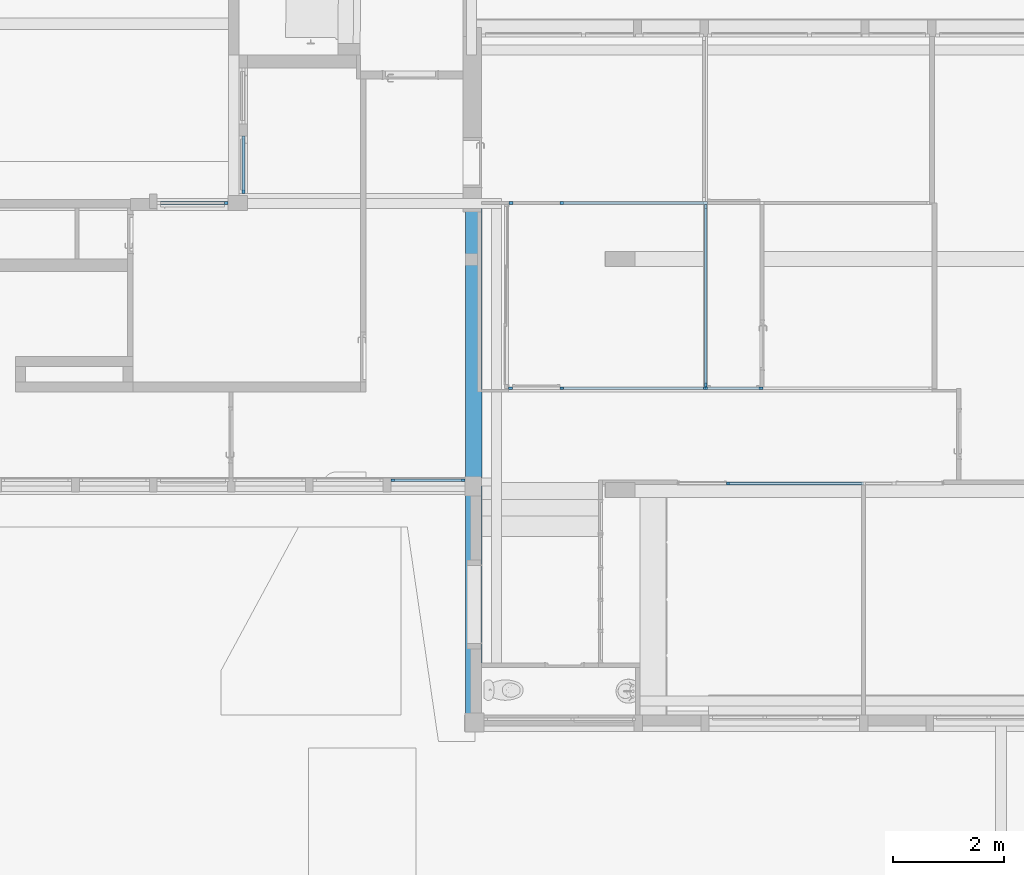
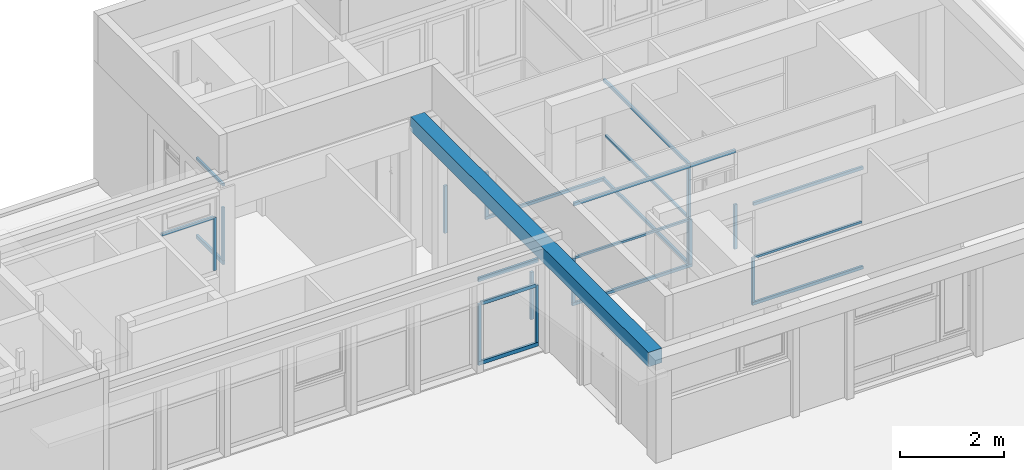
# One storey, part 7 of 49: 30 members, 1 beam, 7 elements without a shape of their own.
"""IFC4 building model written with IfcOpenShell, lengths in metres."""

from ifc_helpers import new_model, entity, si_unit, converted_unit, derived_unit, direction, frame, origin, place, context, subcontext, project, spatial, indexed_curve, outline, extrude, source, transform, mapped, material, type_object, type_shapes, element, aggregate, save


model = new_model("IFC4")

# Units and contexts
model_context = context("Model", 3, precision=1e-05, world=origin(), true_north=direction((6.12303176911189e-17, 1.0)))
body_context = subcontext(model_context, "Body", "Model", "MODEL_VIEW")
ifc_project = project(units=[si_unit("LENGTHUNIT", "METRE"), si_unit("AREAUNIT", "SQUARE_METRE"), si_unit("VOLUMEUNIT", "CUBIC_METRE"), converted_unit("PLANEANGLEUNIT", "DEGREE", entity("IfcRatioMeasure", 0.0174532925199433), si_unit("PLANEANGLEUNIT", "RADIAN"), dimensions=[0, 0, 0, 0, 0, 0, 0]), si_unit("MASSUNIT", "GRAM", prefix="KILO"), derived_unit("MASSDENSITYUNIT", [(si_unit("MASSUNIT", "GRAM", prefix="KILO"), 1), (si_unit("LENGTHUNIT", "METRE"), -3)]), derived_unit("MOMENTOFINERTIAUNIT", [(si_unit("LENGTHUNIT", "METRE"), 4)]), si_unit("TIMEUNIT", "SECOND"), si_unit("FREQUENCYUNIT", "HERTZ"), si_unit("THERMODYNAMICTEMPERATUREUNIT", "DEGREE_CELSIUS"), derived_unit("THERMALTRANSMITTANCEUNIT", [(si_unit("MASSUNIT", "GRAM", prefix="KILO"), 1), (si_unit("THERMODYNAMICTEMPERATUREUNIT", "KELVIN"), -1), (si_unit("TIMEUNIT", "SECOND"), -3)]), derived_unit("VOLUMETRICFLOWRATEUNIT", [(si_unit("LENGTHUNIT", "METRE"), 3), (si_unit("TIMEUNIT", "SECOND"), -1)]), si_unit("ELECTRICCURRENTUNIT", "AMPERE"), si_unit("ELECTRICVOLTAGEUNIT", "VOLT"), si_unit("POWERUNIT", "WATT"), si_unit("FORCEUNIT", "NEWTON", prefix="KILO"), si_unit("ILLUMINANCEUNIT", "LUX"), si_unit("LUMINOUSFLUXUNIT", "LUMEN"), si_unit("LUMINOUSINTENSITYUNIT", "CANDELA"), derived_unit("USERDEFINED", [(si_unit("MASSUNIT", "GRAM", prefix="KILO"), -1), (si_unit("LENGTHUNIT", "METRE"), -2), (si_unit("TIMEUNIT", "SECOND"), 3), (si_unit("LUMINOUSFLUXUNIT", "LUMEN"), 1)]), derived_unit("LINEARVELOCITYUNIT", [(si_unit("LENGTHUNIT", "METRE"), 1), (si_unit("TIMEUNIT", "SECOND"), -1)]), si_unit("PRESSUREUNIT", "PASCAL"), derived_unit("USERDEFINED", [(si_unit("LENGTHUNIT", "METRE"), -2), (si_unit("MASSUNIT", "GRAM", prefix="KILO"), 1), (si_unit("TIMEUNIT", "SECOND"), -2)]), derived_unit("LINEARFORCEUNIT", [(si_unit("MASSUNIT", "GRAM", prefix="KILO"), 1), (si_unit("LENGTHUNIT", "METRE"), 1), (si_unit("TIMEUNIT", "SECOND"), -2), (si_unit("LENGTHUNIT", "METRE"), -1)]), derived_unit("PLANARFORCEUNIT", [(si_unit("MASSUNIT", "GRAM", prefix="KILO"), 1), (si_unit("LENGTHUNIT", "METRE"), 1), (si_unit("TIMEUNIT", "SECOND"), -2), (si_unit("LENGTHUNIT", "METRE"), -2)])], contexts=[model_context])

# Site, building, storey
site_placement = place(None, origin())
site = spatial("IfcSite", under=ifc_project, at=site_placement, Name="Default", CompositionType="ELEMENT")
building_placement = place(site_placement, origin())
building = spatial("IfcBuilding", under=site, at=building_placement, Name="HOTEL CONSULAIRE BOULOGNE SUR MER", CompositionType="ELEMENT")
storey_placement = place(building_placement, frame((0.0, 0.0, 6.81974152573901)))
storey = spatial("IfcBuildingStorey", under=building, at=storey_placement, Name="Niveau 2", CompositionType="ELEMENT", Elevation=6.81974152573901)

# Curtain wall, member
curtain_wall_type = type_object("IfcCurtainWallType", Name="Mur-rideau:Simple panneau", PredefinedType="NOTDEFINED")
curtain_wall_1_placement = place(storey_placement, frame((0.0, 0.0, -6.81974152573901)))
curtain_wall_1 = element("IfcCurtainWall", 1, at=curtain_wall_1_placement, inside=storey, type_object=curtain_wall_type, Name="Mur-rideau:Simple panneau", ObjectType="Mur-rideau:Simple panneau", PredefinedType="NOTDEFINED")
ifc_material_1 = material(Name="PVC - Blanc", Category="Plastique")
member_type_1 = type_object("IfcMemberType", Name="Meneau rectangulaire:50 x 35", PredefinedType="MULLION", material=ifc_material_1)
shared_shape_1 = source(origin(), body_context, "Body", "SweptSolid", [
    extrude(outline(indexed_curve([(-0.025, -0.035), (0.025, -0.035), (0.025, 0.035), (-0.025, 0.035), (-0.025, -0.035)], self_intersect=False)), frame((0.0, -0.025, -1.041), z_axis=(0.0, 0.0, 1.0), x_axis=(0.0, -1.0, 0.0)), (0.0, 0.0, 1.0), 1.041),
])
type_shapes(member_type_1, [shared_shape_1])
member_1_placement = place(storey_placement, frame((13.113075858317, -14.6024237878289, 0.0700000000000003), z_axis=(0.0, 0.0, -1.0), x_axis=(-1.0, 0.0, 0.0)))
member_1 = element("IfcMember", 2, at=member_1_placement, type_object=member_type_1, material=ifc_material_1, Name="Meneau rectangulaire:50 x 35", ObjectType="Meneau rectangulaire:50 x 35", PredefinedType="MULLION", context=body_context, shape_type="MappedRepresentation", body=[
    mapped(shared_shape_1, transform((0.0, 0.0, 0.0), scale=1.0)),
])

# Curtain wall, members
curtain_wall_2_placement = place(storey_placement, frame((0.0, 0.0, -6.81974152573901)))
curtain_wall_2 = element("IfcCurtainWall", 3, at=curtain_wall_2_placement, inside=storey, type_object=curtain_wall_type, Name="Mur-rideau:Simple panneau", ObjectType="Mur-rideau:Simple panneau", PredefinedType="NOTDEFINED")
member_2_placement = place(storey_placement, frame((13.113075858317, -17.9313078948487, 0.0700000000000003), z_axis=(0.0, 0.0, -1.0), x_axis=(-1.0, 0.0, 0.0)))
member_2 = element("IfcMember", 4, at=member_2_placement, type_object=member_type_1, material=ifc_material_1, Name="Meneau rectangulaire:50 x 35", ObjectType="Meneau rectangulaire:50 x 35", PredefinedType="MULLION", context=body_context, shape_type="MappedRepresentation", body=[
    mapped(shared_shape_1, transform((0.0, 0.0, 0.0), scale=1.0)),
])
member_3_placement = place(storey_placement, frame((15.696075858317, -17.9313078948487, 0.0700000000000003), z_axis=(0.0, 0.0, -1.0), x_axis=(-1.0, 0.0, 0.0)))
member_3 = element("IfcMember", 5, at=member_3_placement, type_object=member_type_1, material=ifc_material_1, Name="Meneau rectangulaire:50 x 35", ObjectType="Meneau rectangulaire:50 x 35", PredefinedType="MULLION", context=body_context, shape_type="MappedRepresentation", body=[
    mapped(shared_shape_1, transform((0.0, 0.0, 0.0), scale=1.0)),
])
member_4_placement = place(storey_placement, frame((16.696075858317, -17.9313078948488, 0.0700000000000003), z_axis=(0.0, 0.0, -1.0), x_axis=(-1.0, 0.0, 0.0)))
member_4 = element("IfcMember", 6, at=member_4_placement, type_object=member_type_1, material=ifc_material_1, Name="Meneau rectangulaire:50 x 35", ObjectType="Meneau rectangulaire:50 x 35", PredefinedType="MULLION", context=body_context, shape_type="MappedRepresentation", body=[
    mapped(shared_shape_1, transform((0.0, 0.0, 0.0), scale=1.0)),
])

curtain_wall_3_placement = place(storey_placement, frame((0.0, 0.0, -6.81974152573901)))
curtain_wall_3 = element("IfcCurtainWall", 7, at=curtain_wall_3_placement, inside=storey, type_object=curtain_wall_type, Name="Mur-rideau:Simple panneau", ObjectType="Mur-rideau:Simple panneau", PredefinedType="NOTDEFINED")
member_type_2 = type_object("IfcMemberType", Name="Meneau rectangulaire:50 x 25mm", PredefinedType="MULLION", material=ifc_material_1)
shared_shape_2 = source(origin(), body_context, "Body", "SweptSolid", [
    extrude(outline(indexed_curve([(-0.025, -0.025), (0.025, -0.025), (0.025, 0.025), (-0.025, 0.025), (-0.025, -0.025)], self_intersect=False)), frame((0.0, -0.025, -1.041), z_axis=(0.0, 0.0, 1.0), x_axis=(0.0, -1.0, 0.0)), (0.0, 0.0, 1.0), 1.041),
])
type_shapes(member_type_2, [shared_shape_2])
member_5_placement = place(storey_placement, frame((16.1023568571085, -19.643155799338, 0.0700000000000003), z_axis=(0.0, 0.0, -1.0), x_axis=(-1.0, 0.0, 0.0)))
member_5 = element("IfcMember", 8, at=member_5_placement, type_object=member_type_2, material=ifc_material_1, Name="Meneau rectangulaire:50 x 25mm", ObjectType="Meneau rectangulaire:50 x 25mm", PredefinedType="MULLION", context=body_context, shape_type="MappedRepresentation", body=[
    mapped(shared_shape_2, transform((0.0, 0.0, 0.0), scale=1.0)),
])
member_type_3 = type_object("IfcMemberType", Name="Meneau rectangulaire:50 x 25mm", PredefinedType="MULLION", material=ifc_material_1)
shared_shape_3 = source(origin(), body_context, "Body", "SweptSolid", [
    extrude(outline(indexed_curve([(-0.025, -0.025), (0.025, -0.025), (0.025, 0.025), (-0.025, 0.025), (-0.025, -0.025)], self_intersect=False)), frame((0.0, -0.025, -2.371), z_axis=(0.0, 0.0, 1.0), x_axis=(0.0, -1.0, 0.0)), (0.0, 0.0, 1.0), 2.371),
])
type_shapes(member_type_3, [shared_shape_3])
member_6_placement = place(storey_placement, frame((16.1273568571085, -19.643155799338, 1.111), z_axis=(-1.0, 0.0, 0.0), x_axis=(0.0, 0.0, 1.0)))
member_6 = element("IfcMember", 9, at=member_6_placement, type_object=member_type_3, material=ifc_material_1, Name="Meneau rectangulaire:50 x 25mm", ObjectType="Meneau rectangulaire:50 x 25mm", PredefinedType="MULLION", context=body_context, shape_type="MappedRepresentation", body=[
    mapped(shared_shape_3, transform((0.0, 0.0, 0.0), scale=1.0)),
])
member_type_4 = type_object("IfcMemberType", Name="Meneau rectangulaire:50 x 35", PredefinedType="MULLION", material=ifc_material_1)
shared_shape_4 = source(origin(), body_context, "Body", "SweptSolid", [
    extrude(outline(indexed_curve([(-0.025, -0.035), (0.025, -0.035), (0.025, 0.035), (-0.025, 0.035), (-0.025, -0.035)], self_intersect=False)), frame((-0.035, -0.025, -2.431), z_axis=(0.0, 0.0, 1.0), x_axis=(0.0, -1.0, 0.0)), (0.0, 0.0, 1.0), 2.431),
])
type_shapes(member_type_4, [shared_shape_4])
member_7_placement = place(storey_placement, frame((16.1023568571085, -19.643155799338, 2.402), z_axis=(-1.0, 0.0, 0.0), x_axis=(0.0, 0.0, 1.0)))
member_7 = element("IfcMember", 10, at=member_7_placement, type_object=member_type_4, material=ifc_material_1, Name="Meneau rectangulaire:50 x 35", ObjectType="Meneau rectangulaire:50 x 35", PredefinedType="MULLION", context=body_context, shape_type="MappedRepresentation", body=[
    mapped(shared_shape_4, transform((0.0, 0.0, 0.0), scale=1.0)),
])
member_type_5 = type_object("IfcMemberType", Name="Meneau rectangulaire:50 x 35", PredefinedType="MULLION", material=ifc_material_1)
shared_shape_5 = source(origin(), body_context, "Body", "SweptSolid", [
    extrude(outline(indexed_curve([(-0.025, -0.035), (0.025, -0.035), (0.025, 0.035), (-0.025, 0.035), (-0.025, -0.035)], self_intersect=False)), frame((-0.035, -0.025, -2.456), z_axis=(0.0, 0.0, 1.0), x_axis=(0.0, -1.0, 0.0)), (0.0, 0.0, 1.0), 2.456),
])
type_shapes(member_type_5, [shared_shape_5])
member_8_placement = place(storey_placement, frame((18.5333568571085, -19.643155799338, 0.0), z_axis=(1.0, 0.0, 0.0), x_axis=(0.0, 0.0, -1.0)))
member_8 = element("IfcMember", 11, at=member_8_placement, type_object=member_type_5, material=ifc_material_1, Name="Meneau rectangulaire:50 x 35", ObjectType="Meneau rectangulaire:50 x 35", PredefinedType="MULLION", context=body_context, shape_type="MappedRepresentation", body=[
    mapped(shared_shape_5, transform((0.0, 0.0, 0.0), scale=1.0)),
])
aggregate(curtain_wall_3, [member_5, member_6, member_7, member_8])

# Member
member_type_6 = type_object("IfcMemberType", Name="Meneau rectangulaire:50 x 35", PredefinedType="MULLION", material=ifc_material_1)
shared_shape_6 = source(origin(), body_context, "Body", "SweptSolid", [
    extrude(outline(indexed_curve([(-0.025, -0.035), (0.025, -0.035), (0.025, 0.035), (-0.025, 0.035), (-0.025, -0.035)], self_intersect=False)), frame((-0.035, -0.025, -2.653), z_axis=(0.0, 0.0, 1.0), x_axis=(0.0, -1.0, 0.0)), (0.0, 0.0, 1.0), 2.653),
])
type_shapes(member_type_6, [shared_shape_6])
member_9_placement = place(storey_placement, frame((15.731075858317, -14.6024237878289, 0.0), z_axis=(1.0, 0.0, 0.0), x_axis=(0.0, 0.0, -1.0)))
member_9 = element("IfcMember", 12, at=member_9_placement, type_object=member_type_6, material=ifc_material_1, Name="Meneau rectangulaire:50 x 35", ObjectType="Meneau rectangulaire:50 x 35", PredefinedType="MULLION", context=body_context, shape_type="MappedRepresentation", body=[
    mapped(shared_shape_6, transform((0.0, 0.0, 0.0), scale=1.0)),
])

member_10_placement = place(storey_placement, frame((15.731075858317, -17.9313078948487, 0.0), z_axis=(1.0, 0.0, 0.0), x_axis=(0.0, 0.0, -1.0)))
member_10 = element("IfcMember", 13, at=member_10_placement, type_object=member_type_6, material=ifc_material_1, Name="Meneau rectangulaire:50 x 35", ObjectType="Meneau rectangulaire:50 x 35", PredefinedType="MULLION", context=body_context, shape_type="MappedRepresentation", body=[
    mapped(shared_shape_6, transform((0.0, 0.0, 0.0), scale=1.0)),
])

member_type_7 = type_object("IfcMemberType", Name="Meneau rectangulaire:50 x 35", PredefinedType="MULLION", material=ifc_material_1)
shared_shape_7 = source(origin(), body_context, "Body", "SweptSolid", [
    extrude(outline(indexed_curve([(-0.025, -0.035), (0.025, -0.035), (0.025, 0.035), (-0.025, 0.035), (-0.025, -0.035)], self_intersect=False)), frame((-0.035, -0.025, -2.583), z_axis=(0.0, 0.0, 1.0), x_axis=(0.0, -1.0, 0.0)), (0.0, 0.0, 1.0), 2.583),
])
type_shapes(member_type_7, [shared_shape_7])
member_11_placement = place(storey_placement, frame((13.113075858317, -17.9313078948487, 2.402), z_axis=(-1.0, 0.0, 0.0), x_axis=(0.0, 0.0, 1.0)))
member_11 = element("IfcMember", 14, at=member_11_placement, type_object=member_type_7, material=ifc_material_1, Name="Meneau rectangulaire:50 x 35", ObjectType="Meneau rectangulaire:50 x 35", PredefinedType="MULLION", context=body_context, shape_type="MappedRepresentation", body=[
    mapped(shared_shape_7, transform((0.0, 0.0, 0.0), scale=1.0)),
])

member_type_8 = type_object("IfcMemberType", Name="Meneau rectangulaire:50 x 35", PredefinedType="MULLION", material=ifc_material_1)
shared_shape_8 = source(origin(), body_context, "Body", "SweptSolid", [
    extrude(outline(indexed_curve([(-0.025, -0.035), (0.025, -0.035), (0.025, 0.035), (-0.025, 0.035), (-0.025, -0.035)], self_intersect=False)), frame((-0.035, -0.025, -1.111), z_axis=(0.0, 0.0, 1.0), x_axis=(0.0, -1.0, 0.0)), (0.0, 0.0, 1.0), 1.111),
])
type_shapes(member_type_8, [shared_shape_8])
member_12_placement = place(storey_placement, frame((12.165075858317, -14.6024237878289, 0.0), z_axis=(0.0, 0.0, -1.0), x_axis=(-1.0, 0.0, 0.0)))
member_12 = element("IfcMember", 15, at=member_12_placement, type_object=member_type_8, material=ifc_material_1, Name="Meneau rectangulaire:50 x 35", ObjectType="Meneau rectangulaire:50 x 35", PredefinedType="MULLION", context=body_context, shape_type="MappedRepresentation", body=[
    mapped(shared_shape_8, transform((0.0, 0.0, 0.0), scale=1.0)),
])

aggregate(curtain_wall_1, [member_9, member_1, member_12])

member_13_placement = place(storey_placement, frame((12.1554672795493, -17.9313078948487, 0.0), z_axis=(0.0, 0.0, -1.0), x_axis=(-1.0, 0.0, 0.0)))
member_13 = element("IfcMember", 16, at=member_13_placement, type_object=member_type_8, material=ifc_material_1, Name="Meneau rectangulaire:50 x 35", ObjectType="Meneau rectangulaire:50 x 35", PredefinedType="MULLION", context=body_context, shape_type="MappedRepresentation", body=[
    mapped(shared_shape_8, transform((0.0, 0.0, 0.0), scale=1.0)),
])

member_type_9 = type_object("IfcMemberType", Name="Meneau rectangulaire:50 x 25mm", PredefinedType="MULLION", material=ifc_material_1)
shared_shape_9 = source(origin(), body_context, "Body", "SweptSolid", [
    extrude(outline(indexed_curve([(-0.025, -0.025), (0.025, -0.025), (0.025, 0.025), (-0.025, 0.025), (-0.025, -0.025)], self_intersect=False)), frame((0.0, -0.025, -2.513), z_axis=(0.0, 0.0, 1.0), x_axis=(0.0, -1.0, 0.0)), (0.0, 0.0, 1.0), 2.513),
])
type_shapes(member_type_9, [shared_shape_9])
member_14_placement = place(storey_placement, frame((13.148075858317, -17.9313078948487, 1.111), z_axis=(-1.0, 0.0, 0.0), x_axis=(0.0, 0.0, 1.0)))
member_14 = element("IfcMember", 17, at=member_14_placement, type_object=member_type_9, material=ifc_material_1, Name="Meneau rectangulaire:50 x 25mm", ObjectType="Meneau rectangulaire:50 x 25mm", PredefinedType="MULLION", context=body_context, shape_type="MappedRepresentation", body=[
    mapped(shared_shape_9, transform((0.0, 0.0, 0.0), scale=1.0)),
])

# Curtain wall, members
curtain_wall_4_placement = place(storey_placement, frame((0.0, 0.0, -6.81974152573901)))
curtain_wall_4 = element("IfcCurtainWall", 18, at=curtain_wall_4_placement, inside=storey, type_object=curtain_wall_type, Name="Mur-rideau:Simple panneau", ObjectType="Mur-rideau:Simple panneau", PredefinedType="NOTDEFINED")
member_type_10 = type_object("IfcMemberType", Name="Meneau rectangulaire:50 x 35", PredefinedType="MULLION", material=ifc_material_1)
shared_shape_10 = source(origin(), body_context, "Body", "SweptSolid", [
    extrude(outline(indexed_curve([(-0.025, -0.035), (0.025, -0.035), (0.025, 0.035), (-0.025, 0.035), (-0.025, -0.035)], self_intersect=False)), frame((-0.035, -0.025, -3.27888410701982), z_axis=(0.0, 0.0, 1.0), x_axis=(0.0, -1.0, 0.0)), (0.0, 0.0, 1.0), 3.27888410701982),
])
type_shapes(member_type_10, [shared_shape_10])
member_15_placement = place(storey_placement, frame((15.7270339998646, -17.9313078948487, 0.0), z_axis=(0.0, -1.0, 0.0), x_axis=(0.0, 0.0, -1.0)))
member_15 = element("IfcMember", 19, at=member_15_placement, type_object=member_type_10, material=ifc_material_1, Name="Meneau rectangulaire:50 x 35", ObjectType="Meneau rectangulaire:50 x 35", PredefinedType="MULLION", context=body_context, shape_type="MappedRepresentation", body=[
    mapped(shared_shape_10, transform((0.0, 0.0, 0.0), scale=1.0)),
])
member_type_11 = type_object("IfcMemberType", Name="Meneau rectangulaire:50 x 35", PredefinedType="MULLION", material=ifc_material_1)
shared_shape_11 = source(origin(), body_context, "Body", "SweptSolid", [
    extrude(outline(indexed_curve([(-0.025, -0.035), (0.025, -0.035), (0.025, 0.035), (-0.025, 0.035), (-0.025, -0.035)], self_intersect=False)), frame((-0.035, -0.025, -1.221), z_axis=(0.0, 0.0, 1.0), x_axis=(0.0, -1.0, 0.0)), (0.0, 0.0, 1.0), 1.221),
])
type_shapes(member_type_11, [shared_shape_11])
member_16_placement = place(storey_placement, frame((15.7270339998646, -17.9313078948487, 2.332), z_axis=(0.0, 0.0, 1.0), x_axis=(0.0, -1.0, 0.0)))
member_16 = element("IfcMember", 20, at=member_16_placement, type_object=member_type_11, material=ifc_material_1, Name="Meneau rectangulaire:50 x 35", ObjectType="Meneau rectangulaire:50 x 35", PredefinedType="MULLION", context=body_context, shape_type="MappedRepresentation", body=[
    mapped(shared_shape_11, transform((0.0, 0.0, 0.0), scale=1.0)),
])
member_type_12 = type_object("IfcMemberType", Name="Meneau rectangulaire:50 x 35", PredefinedType="MULLION", material=ifc_material_1)
shared_shape_12 = source(origin(), body_context, "Body", "SweptSolid", [
    extrude(outline(indexed_curve([(-0.025, -0.035), (0.025, -0.035), (0.025, 0.035), (-0.025, 0.035), (-0.025, -0.035)], self_intersect=False)), frame((-0.035, -0.025, -3.27888410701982), z_axis=(0.0, 0.0, 1.0), x_axis=(0.0, -1.0, 0.0)), (0.0, 0.0, 1.0), 3.27888410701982),
])
type_shapes(member_type_12, [shared_shape_12])
member_17_placement = place(storey_placement, frame((15.7270339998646, -14.6524237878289, 2.402), z_axis=(0.0, 1.0, 0.0), x_axis=(0.0, 0.0, 1.0)))
member_17 = element("IfcMember", 21, at=member_17_placement, type_object=member_type_12, material=ifc_material_1, Name="Meneau rectangulaire:50 x 35", ObjectType="Meneau rectangulaire:50 x 35", PredefinedType="MULLION", context=body_context, shape_type="MappedRepresentation", body=[
    mapped(shared_shape_12, transform((0.0, 0.0, 0.0), scale=1.0)),
])
member_type_13 = type_object("IfcMemberType", Name="Meneau rectangulaire:50 x 35", PredefinedType="MULLION", material=ifc_material_1)
shared_shape_13 = source(origin(), body_context, "Body", "SweptSolid", [
    extrude(outline(indexed_curve([(-0.025, -0.035), (0.025, -0.035), (0.025, 0.035), (-0.025, 0.035), (-0.025, -0.035)], self_intersect=False)), frame((-0.035, -0.025, -1.041), z_axis=(0.0, 0.0, 1.0), x_axis=(0.0, -1.0, 0.0)), (0.0, 0.0, 1.0), 1.041),
])
type_shapes(member_type_13, [shared_shape_13])
member_18_placement = place(storey_placement, frame((15.7270339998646, -17.9313078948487, 1.111), z_axis=(0.0, 0.0, 1.0), x_axis=(0.0, -1.0, 0.0)))
member_18 = element("IfcMember", 22, at=member_18_placement, type_object=member_type_13, material=ifc_material_1, Name="Meneau rectangulaire:50 x 35", ObjectType="Meneau rectangulaire:50 x 35", PredefinedType="MULLION", context=body_context, shape_type="MappedRepresentation", body=[
    mapped(shared_shape_13, transform((0.0, 0.0, 0.0), scale=1.0)),
])
member_type_14 = type_object("IfcMemberType", Name="Meneau rectangulaire:50 x 25mm", PredefinedType="MULLION", material=ifc_material_1)
shared_shape_14 = source(origin(), body_context, "Body", "SweptSolid", [
    extrude(outline(indexed_curve([(-0.025, -0.025), (0.025, -0.025), (0.025, 0.025), (-0.025, 0.025), (-0.025, -0.025)], self_intersect=False)), frame((0.0, -0.025, -3.13888410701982), z_axis=(0.0, 0.0, 1.0), x_axis=(0.0, -1.0, 0.0)), (0.0, 0.0, 1.0), 3.13888410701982),
])
type_shapes(member_type_14, [shared_shape_14])
member_19_placement = place(storey_placement, frame((15.7270339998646, -14.7224237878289, 1.111), z_axis=(0.0, 1.0, 0.0), x_axis=(0.0, 0.0, 1.0)))
member_19 = element("IfcMember", 23, at=member_19_placement, type_object=member_type_14, material=ifc_material_1, Name="Meneau rectangulaire:50 x 25mm", ObjectType="Meneau rectangulaire:50 x 25mm", PredefinedType="MULLION", context=body_context, shape_type="MappedRepresentation", body=[
    mapped(shared_shape_14, transform((0.0, 0.0, 0.0), scale=1.0)),
])
aggregate(curtain_wall_4, [member_15, member_16, member_17, member_18, member_19])

curtain_wall_5_placement = place(storey_placement, frame((0.0, 0.0, -6.81974152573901)))
curtain_wall_5 = element("IfcCurtainWall", 24, at=curtain_wall_5_placement, inside=storey, type_object=curtain_wall_type, Name="Mur-rideau:Simple panneau", ObjectType="Mur-rideau:Simple panneau", PredefinedType="NOTDEFINED")
member_type_15 = type_object("IfcMemberType", Name="Meneau rectangulaire:50 x 30", PredefinedType="MULLION", material=ifc_material_1)
shared_shape_15 = source(origin(), body_context, "Body", "SweptSolid", [
    extrude(outline(indexed_curve([(-0.025, -0.03), (0.025, -0.03), (0.025, 0.03), (-0.025, 0.03), (-0.025, -0.03)], self_intersect=False)), frame((-0.03, -0.025, -1.342), z_axis=(0.0, 0.0, 1.0), x_axis=(0.0, -1.0, 0.0)), (0.0, 0.0, 1.0), 1.342),
])
type_shapes(member_type_15, [shared_shape_15])
member_20_placement = place(storey_placement, frame((10.0442115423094, -19.6319143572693, 2.102), z_axis=(0.0, 0.0, 1.0), x_axis=(-1.0, 0.0, 0.0)))
member_20 = element("IfcMember", 25, at=member_20_placement, type_object=member_type_15, material=ifc_material_1, Name="Meneau rectangulaire:50 x 30", ObjectType="Meneau rectangulaire:50 x 30", PredefinedType="MULLION", context=body_context, shape_type="MappedRepresentation", body=[
    mapped(shared_shape_15, transform((0.0, 0.0, 0.0), scale=1.0)),
])
member_type_16 = type_object("IfcMemberType", Name="Meneau rectangulaire:50 x 30", PredefinedType="MULLION", material=ifc_material_1)
shared_shape_16 = source(origin(), body_context, "Body", "SweptSolid", [
    extrude(outline(indexed_curve([(-0.025, -0.03), (0.025, -0.03), (0.025, 0.03), (-0.025, 0.03), (-0.025, -0.03)], self_intersect=False)), frame((-0.03, -0.025, -1.342), z_axis=(0.0, 0.0, 1.0), x_axis=(0.0, -1.0, 0.0)), (0.0, 0.0, 1.0), 1.342),
])
type_shapes(member_type_16, [shared_shape_16])
member_21_placement = place(storey_placement, frame((11.3719435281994, -19.6319143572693, 0.76), z_axis=(0.0, 0.0, -1.0), x_axis=(1.0, 0.0, 0.0)))
member_21 = element("IfcMember", 26, at=member_21_placement, type_object=member_type_16, material=ifc_material_1, Name="Meneau rectangulaire:50 x 30", ObjectType="Meneau rectangulaire:50 x 30", PredefinedType="MULLION", context=body_context, shape_type="MappedRepresentation", body=[
    mapped(shared_shape_16, transform((0.0, 0.0, 0.0), scale=1.0)),
])
member_type_17 = type_object("IfcMemberType", Name="Meneau rectangulaire:50 x 40", PredefinedType="MULLION", material=ifc_material_1)
shared_shape_17 = source(origin(), body_context, "Body", "SweptSolid", [
    extrude(outline(indexed_curve([(-0.025, -0.04), (0.025, -0.04), (0.025, 0.04), (-0.025, 0.04), (-0.025, -0.04)], self_intersect=False)), frame((0.0, -0.025, -1.20773198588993), z_axis=(0.0, 0.0, 1.0), x_axis=(0.0, -1.0, 0.0)), (0.0, 0.0, 1.0), 1.20773198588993),
])
type_shapes(member_type_17, [shared_shape_17])
member_22_placement = place(storey_placement, frame((11.3119435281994, -19.6319143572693, 2.102), z_axis=(1.0, 0.0, 0.0), x_axis=(0.0, 0.0, 1.0)))
member_22 = element("IfcMember", 27, at=member_22_placement, type_object=member_type_17, material=ifc_material_1, Name="Meneau rectangulaire:50 x 40", ObjectType="Meneau rectangulaire:50 x 40", PredefinedType="MULLION", context=body_context, shape_type="MappedRepresentation", body=[
    mapped(shared_shape_17, transform((0.0, 0.0, 0.0), scale=1.0)),
])
member_type_18 = type_object("IfcMemberType", Name="Meneau rectangulaire:50 x 45", PredefinedType="MULLION", material=ifc_material_1)
shared_shape_18 = source(origin(), body_context, "Body", "SweptSolid", [
    extrude(outline(indexed_curve([(-0.025, -0.045), (0.025, -0.045), (0.025, 0.045), (-0.025, 0.045), (-0.025, -0.045)], self_intersect=False)), frame((-0.045, -0.025, -1.32773198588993), z_axis=(0.0, 0.0, 1.0), x_axis=(0.0, -1.0, 0.0)), (0.0, 0.0, 1.0), 1.32773198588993),
])
type_shapes(member_type_18, [shared_shape_18])
member_23_placement = place(storey_placement, frame((11.3719435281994, -19.6319143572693, 2.71889394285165), z_axis=(1.0, 0.0, 0.0), x_axis=(0.0, 0.0, 1.0)))
member_23 = element("IfcMember", 28, at=member_23_placement, type_object=member_type_18, material=ifc_material_1, Name="Meneau rectangulaire:50 x 45", ObjectType="Meneau rectangulaire:50 x 45", PredefinedType="MULLION", context=body_context, shape_type="MappedRepresentation", body=[
    mapped(shared_shape_18, transform((0.0, 0.0, 0.0), scale=1.0)),
])
member_type_19 = type_object("IfcMemberType", Name="Meneau rectangulaire:50 x 45", PredefinedType="MULLION", material=ifc_material_1)
shared_shape_19 = source(origin(), body_context, "Body", "SweptSolid", [
    extrude(outline(indexed_curve([(-0.025, -0.045), (0.025, -0.045), (0.025, 0.045), (-0.025, 0.045), (-0.025, -0.045)], self_intersect=False)), frame((-0.045, -0.025, -1.32773198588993), z_axis=(0.0, 0.0, 1.0), x_axis=(0.0, -1.0, 0.0)), (0.0, 0.0, 1.0), 1.32773198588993),
])
type_shapes(member_type_19, [shared_shape_19])
member_24_placement = place(storey_placement, frame((10.0442115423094, -19.6319143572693, 0.67), z_axis=(-1.0, 0.0, 0.0), x_axis=(0.0, 0.0, -1.0)))
member_24 = element("IfcMember", 29, at=member_24_placement, type_object=member_type_19, material=ifc_material_1, Name="Meneau rectangulaire:50 x 45", ObjectType="Meneau rectangulaire:50 x 45", PredefinedType="MULLION", context=body_context, shape_type="MappedRepresentation", body=[
    mapped(shared_shape_19, transform((0.0, 0.0, 0.0), scale=1.0)),
])
aggregate(curtain_wall_5, [member_20, member_21, member_22, member_23, member_24])

# Beam
ifc_material_2 = material(Name="Béton - Béton coulé sur place", Category="Béton")
beam_type = type_object("IfcBeamType", Name="Poutre rectangulaire - Béton:300x340", PredefinedType="BEAM", material=ifc_material_2)
shared_shape_20 = source(origin(), body_context, "Body", "SweptSolid", [
    extrude(outline(indexed_curve([(-0.149999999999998, -0.169999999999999), (0.150000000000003, -0.169999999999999), (0.150000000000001, 0.17), (-0.149999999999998, 0.17), (-0.149999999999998, -0.169999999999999)], self_intersect=False)), frame((11.5319086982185, -23.8271007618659, 9.70174152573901), z_axis=(0.0, 1.0, 0.0), x_axis=(-1.0, 0.0, 0.0)), (0.0, 0.0, 1.0), 9.11630239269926),
])
type_shapes(beam_type, [shared_shape_20])
beam_placement = place(storey_placement, frame((0.0, 0.0, -6.81974152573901)))
element("IfcBeam", 30, at=beam_placement, inside=storey, type_object=beam_type, material=ifc_material_2, Name="Poutre rectangulaire - Béton:300x340", ObjectType="Poutre rectangulaire - Béton:300x340", PredefinedType="BEAM", context=body_context, shape_type="MappedRepresentation", body=[
    mapped(shared_shape_20, transform((0.0, 0.0, 0.0), scale=1.0)),
])

# Member
member_type_20 = type_object("IfcMemberType", Name="Meneau rectangulaire:50 x 35", PredefinedType="MULLION", material=ifc_material_1)
shared_shape_21 = source(origin(), body_context, "Body", "SweptSolid", [
    extrude(outline(indexed_curve([(-0.025, -0.035), (0.025, -0.035), (0.025, 0.035), (-0.025, 0.035), (-0.025, -0.035)], self_intersect=False)), frame((-0.035, -0.025, -1.0), z_axis=(0.0, 0.0, 1.0), x_axis=(0.0, -1.0, 0.0)), (0.0, 0.0, 1.0), 1.0),
])
type_shapes(member_type_20, [shared_shape_21])
member_25_placement = place(storey_placement, frame((15.696075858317, -17.9313078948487, 2.402), z_axis=(-1.0, 0.0, 0.0), x_axis=(0.0, 0.0, 1.0)))
member_25 = element("IfcMember", 31, at=member_25_placement, type_object=member_type_20, material=ifc_material_1, Name="Meneau rectangulaire:50 x 35", ObjectType="Meneau rectangulaire:50 x 35", PredefinedType="MULLION", context=body_context, shape_type="MappedRepresentation", body=[
    mapped(shared_shape_21, transform((0.0, 0.0, 0.0), scale=1.0)),
])

aggregate(curtain_wall_2, [member_10, member_25, member_11, member_2, member_3, member_4, member_13, member_14])

# Curtain wall, member
curtain_wall_6_placement = place(storey_placement, frame((0.0, 0.0, -6.81974152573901)))
curtain_wall_6 = element("IfcCurtainWall", 32, at=curtain_wall_6_placement, inside=storey, type_object=curtain_wall_type, Name="Mur-rideau:Simple panneau", ObjectType="Mur-rideau:Simple panneau", PredefinedType="NOTDEFINED")
member_type_21 = type_object("IfcMemberType", Name="Meneau rectangulaire:50 x 30", PredefinedType="MULLION", material=ifc_material_1)
shared_shape_22 = source(origin(), body_context, "Body", "SweptSolid", [
    extrude(outline(indexed_curve([(-0.025, -0.03), (0.025, -0.03), (0.025, 0.03), (-0.025, 0.03), (-0.025, -0.03)], self_intersect=False)), frame((-0.03, -0.025, -1.244), z_axis=(0.0, 0.0, 1.0), x_axis=(0.0, -1.0, 0.0)), (0.0, 0.0, 1.0), 1.244),
])
type_shapes(member_type_21, [shared_shape_22])
member_26_placement = place(storey_placement, frame((7.3689802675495, -14.4530869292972, 0.914734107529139), z_axis=(0.0, 0.0, -1.0), x_axis=(0.0, -1.0, 0.0)))
member_26 = element("IfcMember", 33, at=member_26_placement, type_object=member_type_21, material=ifc_material_1, Name="Meneau rectangulaire:50 x 30", ObjectType="Meneau rectangulaire:50 x 30", PredefinedType="MULLION", context=body_context, shape_type="MappedRepresentation", body=[
    mapped(shared_shape_22, transform((0.0, 0.0, 0.0), scale=1.0)),
])

curtain_wall_7_placement = place(storey_placement, frame((0.0, 0.0, -6.81974152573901)))
curtain_wall_7 = element("IfcCurtainWall", 34, at=curtain_wall_7_placement, inside=storey, type_object=curtain_wall_type, Name="Mur-rideau:Simple panneau", ObjectType="Mur-rideau:Simple panneau", PredefinedType="NOTDEFINED")
member_27_placement = place(storey_placement, frame((7.11346777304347, -14.6529109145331, 0.914734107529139), z_axis=(0.0, 0.0, -1.0), x_axis=(1.0, 0.0, 0.0)))
member_27 = element("IfcMember", 35, at=member_27_placement, type_object=member_type_21, material=ifc_material_1, Name="Meneau rectangulaire:50 x 30", ObjectType="Meneau rectangulaire:50 x 30", PredefinedType="MULLION", context=body_context, shape_type="MappedRepresentation", body=[
    mapped(shared_shape_22, transform((0.0, 0.0, 0.0), scale=1.0)),
])

# Member
member_type_22 = type_object("IfcMemberType", Name="Meneau rectangulaire:50 x 45", PredefinedType="MULLION", material=ifc_material_1)
shared_shape_23 = source(origin(), body_context, "Body", "SweptSolid", [
    extrude(outline(indexed_curve([(-0.025, -0.045), (0.025, -0.045), (0.025, 0.045), (-0.025, 0.045), (-0.025, -0.045)], self_intersect=False)), frame((-0.045, -0.025, -1.03317601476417), z_axis=(0.0, 0.0, 1.0), x_axis=(0.0, -1.0, 0.0)), (0.0, 0.0, 1.0), 1.03317601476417),
])
type_shapes(member_type_22, [shared_shape_23])
member_28_placement = place(storey_placement, frame((7.3689802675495, -13.4199109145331, 0.824734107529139), z_axis=(0.0, 1.0, 0.0), x_axis=(0.0, 0.0, -1.0)))
member_28 = element("IfcMember", 36, at=member_28_placement, type_object=member_type_22, material=ifc_material_1, Name="Meneau rectangulaire:50 x 45", ObjectType="Meneau rectangulaire:50 x 45", PredefinedType="MULLION", context=body_context, shape_type="MappedRepresentation", body=[
    mapped(shared_shape_23, transform((0.0, 0.0, 0.0), scale=1.0)),
])

member_type_23 = type_object("IfcMemberType", Name="Meneau rectangulaire:50 x 30", PredefinedType="MULLION", material=ifc_material_1)
shared_shape_24 = source(origin(), body_context, "Body", "SweptSolid", [
    extrude(outline(indexed_curve([(-0.025, -0.03), (0.025, -0.03), (0.025, 0.03), (-0.025, 0.03), (-0.025, -0.03)], self_intersect=False)), frame((-0.03, -0.025, -1.03317601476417), z_axis=(0.0, 0.0, 1.0), x_axis=(0.0, -1.0, 0.0)), (0.0, 0.0, 1.0), 1.03317601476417),
])
type_shapes(member_type_23, [shared_shape_24])
member_29_placement = place(storey_placement, frame((7.3689802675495, -14.4530869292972, 2.72473410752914), z_axis=(0.0, -1.0, 0.0), x_axis=(0.0, 0.0, 1.0)))
member_29 = element("IfcMember", 37, at=member_29_placement, type_object=member_type_23, material=ifc_material_1, Name="Meneau rectangulaire:50 x 30", ObjectType="Meneau rectangulaire:50 x 30", PredefinedType="MULLION", context=body_context, shape_type="MappedRepresentation", body=[
    mapped(shared_shape_24, transform((0.0, 0.0, 0.0), scale=1.0)),
])

aggregate(curtain_wall_6, [member_26, member_28, member_29])

member_type_24 = type_object("IfcMemberType", Name="Meneau rectangulaire:50 x 30", PredefinedType="MULLION", material=ifc_material_1)
shared_shape_25 = source(origin(), body_context, "Body", "SweptSolid", [
    extrude(outline(indexed_curve([(-0.025, -0.03), (0.025, -0.03), (0.025, 0.03), (-0.025, 0.03), (-0.025, -0.03)], self_intersect=False)), frame((0.0, -0.025, -1.14925623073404), z_axis=(0.0, 0.0, 1.0), x_axis=(0.0, -1.0, 0.0)), (0.0, 0.0, 1.0), 1.14925623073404),
])
type_shapes(member_type_24, [shared_shape_25])
member_30_placement = place(storey_placement, frame((7.05346777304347, -14.6529109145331, 2.15873410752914), z_axis=(1.0, 0.0, 0.0), x_axis=(0.0, 0.0, 1.0)))
member_30 = element("IfcMember", 38, at=member_30_placement, type_object=member_type_24, material=ifc_material_1, Name="Meneau rectangulaire:50 x 30", ObjectType="Meneau rectangulaire:50 x 30", PredefinedType="MULLION", context=body_context, shape_type="MappedRepresentation", body=[
    mapped(shared_shape_25, transform((0.0, 0.0, 0.0), scale=1.0)),
])

aggregate(curtain_wall_7, [member_27, member_30])

save(model, "model.ifc")
